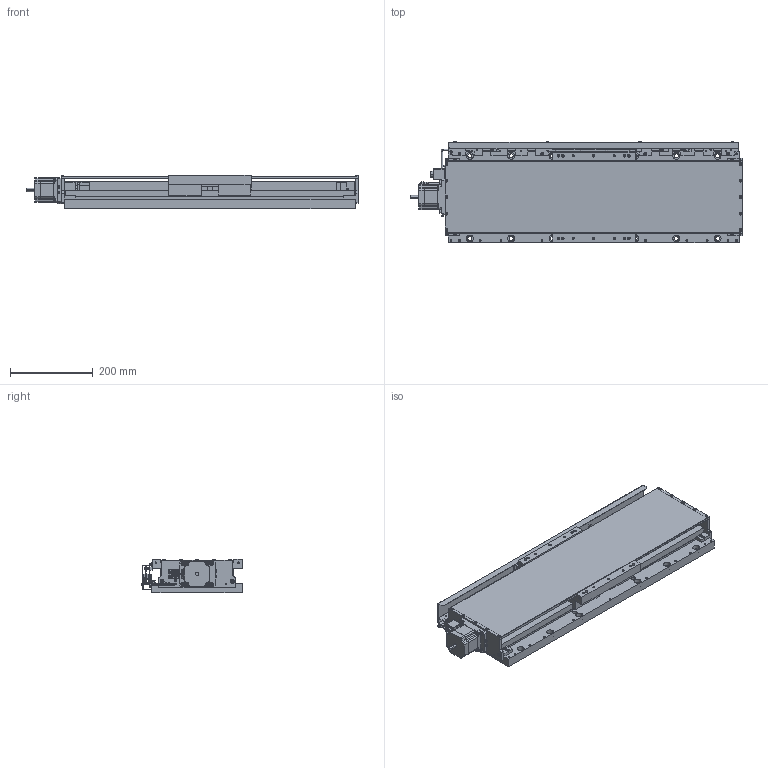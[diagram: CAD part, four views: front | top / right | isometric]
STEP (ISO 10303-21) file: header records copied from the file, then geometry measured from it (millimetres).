
FILE_DESCRIPTION (( 'STEP AP203' ), '1' );
FILE_NAME ('XA20F-L2401-R.STEP', '2019-05-22T04:00:42', ( '' ), ( '' ), 'SwSTEP 2.0', 'SolidWorks 2018', '' );
FILE_SCHEMA (( 'CONFIG_CONTROL_DESIGN' ));
Length unit declared in the file: millimetre
Products named in the file (10): base-Part-5; base-Part-1; table-Part-2; base-Part-3; table; base; XA20F-L2401-R; base-Part-4; table-Part-1; base-Part-2
Assembly tree (9 placements, depth 3):
  XA20F-L2401-R
    base
      base-Part-1
      base-Part-2
      base-Part-3
      base-Part-4
      base-Part-5
    table
      table-Part-1
      table-Part-2
Bounding box: 804 x 244.89 x 80 mm (x, y, z)
Volume: 5842337.9 mm3; surface area: 1177229.3 mm2
Topology: 7 solids, 9 shells, 3374 faces, 8346 edges, 5074 vertices
Faces by surface type: plane 2000, cylinder 807, cone 481, torus 46, sphere 34, bspline 6
Entity records: 99692 total; most frequent: DIRECTION 17524, CARTESIAN_POINT 17485, ORIENTED_EDGE 16368, EDGE_CURVE 8184, AXIS2_PLACEMENT_3D 6061, VECTOR 5402, LINE 5402, VERTEX_POINT 5074
